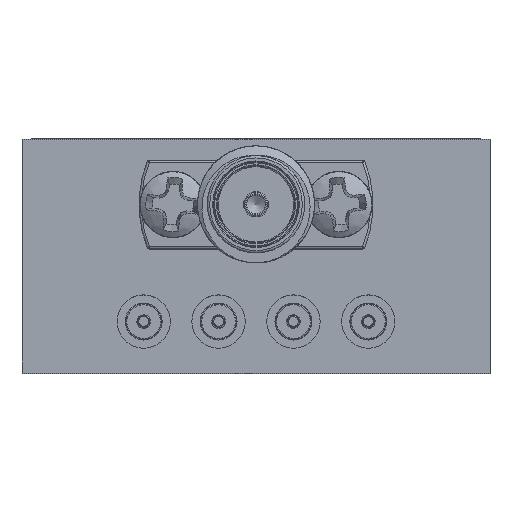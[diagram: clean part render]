
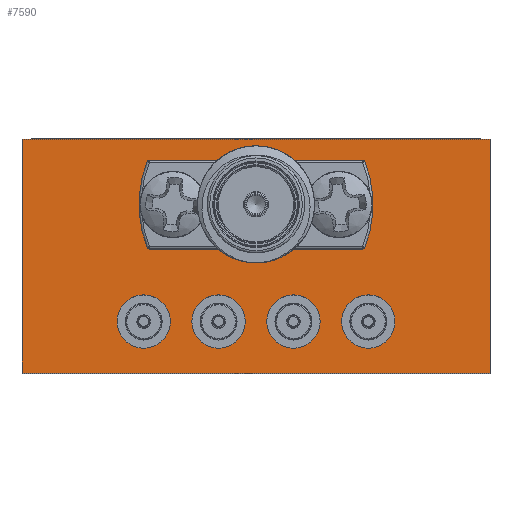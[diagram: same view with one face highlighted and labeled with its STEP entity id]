
A CAD part, top view. The second image highlights one B-rep face of the part: STEP entity #7590.
In plain terms, the highlighted planar face has unit normal (0, 0, 1).
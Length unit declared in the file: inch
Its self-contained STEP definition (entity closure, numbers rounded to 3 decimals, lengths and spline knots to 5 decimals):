
#738 = LINE ( 'NONE', #39437, #1874 ) ;
#778 = VERTEX_POINT ( 'NONE', #15472 ) ;
#863 = FACE_BOUND ( 'NONE', #12836, .T. ) ;
#894 = ORIENTED_EDGE ( 'NONE', *, *, #12998, .F. ) ;
#1414 = DIRECTION ( 'NONE',  ( 0., 1., 0. ) ) ;
#1874 = VECTOR ( 'NONE', #1414, 39.37008 ) ;
#1885 = VECTOR ( 'NONE', #24505, 39.37008 ) ;
#2412 = VERTEX_POINT ( 'NONE', #22697 ) ;
#2648 = CARTESIAN_POINT ( 'NONE',  ( 0.3725, -0.14, 0. ) ) ;
#2805 = CARTESIAN_POINT ( 'NONE',  ( 0., 0., 0. ) ) ;
#3006 = CIRCLE ( 'NONE', #38342, 0.049 ) ;
#3028 = DIRECTION ( 'NONE',  ( 1., 0., 0. ) ) ;
#3105 = CIRCLE ( 'NONE', #18492, 0.057 ) ;
#3108 = VERTEX_POINT ( 'NONE', #2648 ) ;
#3513 = AXIS2_PLACEMENT_3D ( 'NONE', #17100, #42509, #32090 ) ;
#3983 = DIRECTION ( 'NONE',  ( 1., 0., 0. ) ) ;
#4135 = CIRCLE ( 'NONE', #8503, 0.057 ) ;
#4290 = CARTESIAN_POINT ( 'NONE',  ( 0.477, -0.39, 0. ) ) ;
#4317 = DIRECTION ( 'NONE',  ( 1., 0., 0. ) ) ;
#4340 = EDGE_CURVE ( 'NONE', #42293, #778, #37935, .T. ) ;
#4547 = FACE_BOUND ( 'NONE', #35632, .T. ) ;
#4690 = AXIS2_PLACEMENT_3D ( 'NONE', #25247, #28965, #4317 ) ;
#4910 = EDGE_CURVE ( 'NONE', #32371, #32371, #31882, .T. ) ;
#5096 = ORIENTED_EDGE ( 'NONE', *, *, #40471, .F. ) ;
#6775 = CARTESIAN_POINT ( 'NONE',  ( 0.58, -0.39, 0. ) ) ;
#7203 = ORIENTED_EDGE ( 'NONE', *, *, #26222, .T. ) ;
#7447 = CARTESIAN_POINT ( 'NONE',  ( 0.26, -0.39, 0. ) ) ;
#7493 = CARTESIAN_POINT ( 'NONE',  ( 0.797, -0.39, 0. ) ) ;
#7590 = ADVANCED_FACE ( 'NONE', ( #4547, #21338, #863, #32408, #14872, #14435, #43274, #25259 ), #42831, .T. ) ;
#7806 = DIRECTION ( 'NONE',  ( 1., 0., 0. ) ) ;
#7922 = CIRCLE ( 'NONE', #3513, 0.05 ) ;
#8163 = LINE ( 'NONE', #33016, #13530 ) ;
#8503 = AXIS2_PLACEMENT_3D ( 'NONE', #7447, #25116, #3983 ) ;
#9323 = CARTESIAN_POINT ( 'NONE',  ( 0.6775, -0.14, 0. ) ) ;
#9822 = CIRCLE ( 'NONE', #4690, 0.057 ) ;
#10260 = CARTESIAN_POINT ( 'NONE',  ( 1., -0.5, 0. ) ) ;
#10402 = DIRECTION ( 'NONE',  ( 1., 0., 0. ) ) ;
#10908 = VERTEX_POINT ( 'NONE', #25169 ) ;
#11217 = AXIS2_PLACEMENT_3D ( 'NONE', #6775, #45270, #10402 ) ;
#11451 = EDGE_CURVE ( 'NONE', #35849, #35849, #3105, .T. ) ;
#12261 = ORIENTED_EDGE ( 'NONE', *, *, #25270, .F. ) ;
#12696 = EDGE_LOOP ( 'NONE', ( #894 ) ) ;
#12836 = EDGE_LOOP ( 'NONE', ( #25782 ) ) ;
#12998 = EDGE_CURVE ( 'NONE', #40417, #40417, #3006, .T. ) ;
#13530 = VECTOR ( 'NONE', #33254, 39.37008 ) ;
#14435 = FACE_BOUND ( 'NONE', #25227, .T. ) ;
#14872 = FACE_BOUND ( 'NONE', #23040, .T. ) ;
#15472 = CARTESIAN_POINT ( 'NONE',  ( 1., 0., 0. ) ) ;
#16715 = EDGE_LOOP ( 'NONE', ( #12261 ) ) ;
#16883 = DIRECTION ( 'NONE',  ( 1., 0., 0. ) ) ;
#17100 = CARTESIAN_POINT ( 'NONE',  ( 0.3225, -0.14, 0. ) ) ;
#17898 = VECTOR ( 'NONE', #3028, 39.37008 ) ;
#18492 = AXIS2_PLACEMENT_3D ( 'NONE', #38447, #20418, #28041 ) ;
#20418 = DIRECTION ( 'NONE',  ( 0., 0., 1. ) ) ;
#21165 = LINE ( 'NONE', #2805, #17898 ) ;
#21338 = FACE_BOUND ( 'NONE', #29048, .T. ) ;
#21572 = EDGE_CURVE ( 'NONE', #3108, #3108, #7922, .T. ) ;
#22046 = DIRECTION ( 'NONE',  ( 1., 0., 0. ) ) ;
#22252 = DIRECTION ( 'NONE',  ( 0., 0., 1. ) ) ;
#22697 = CARTESIAN_POINT ( 'NONE',  ( 0., 0., 0. ) ) ;
#22722 = ORIENTED_EDGE ( 'NONE', *, *, #21572, .F. ) ;
#23040 = EDGE_LOOP ( 'NONE', ( #30176 ) ) ;
#24505 = DIRECTION ( 'NONE',  ( 0., 1., 0. ) ) ;
#24941 = VERTEX_POINT ( 'NONE', #7493 ) ;
#25116 = DIRECTION ( 'NONE',  ( 0., 0., 1. ) ) ;
#25169 = CARTESIAN_POINT ( 'NONE',  ( 0.637, -0.39, 0. ) ) ;
#25205 = AXIS2_PLACEMENT_3D ( 'NONE', #9323, #41363, #16883 ) ;
#25227 = EDGE_LOOP ( 'NONE', ( #33348 ) ) ;
#25247 = CARTESIAN_POINT ( 'NONE',  ( 0.74, -0.39, 0. ) ) ;
#25259 = FACE_OUTER_BOUND ( 'NONE', #26464, .T. ) ;
#25270 = EDGE_CURVE ( 'NONE', #10908, #10908, #31102, .T. ) ;
#25325 = ORIENTED_EDGE ( 'NONE', *, *, #39504, .F. ) ;
#25782 = ORIENTED_EDGE ( 'NONE', *, *, #25928, .F. ) ;
#25928 = EDGE_CURVE ( 'NONE', #24941, #24941, #9822, .T. ) ;
#26095 = CARTESIAN_POINT ( 'NONE',  ( 0.549, -0.14, 0. ) ) ;
#26222 = EDGE_CURVE ( 'NONE', #30577, #42293, #8163, .T. ) ;
#26464 = EDGE_LOOP ( 'NONE', ( #25325, #5096, #7203, #30981 ) ) ;
#28041 = DIRECTION ( 'NONE',  ( 1., 0., 0. ) ) ;
#28965 = DIRECTION ( 'NONE',  ( 0., 0., 1. ) ) ;
#29048 = EDGE_LOOP ( 'NONE', ( #36216 ) ) ;
#29401 = CARTESIAN_POINT ( 'NONE',  ( 0., -0.5, 0. ) ) ;
#30176 = ORIENTED_EDGE ( 'NONE', *, *, #11451, .F. ) ;
#30577 = VERTEX_POINT ( 'NONE', #29401 ) ;
#30981 = ORIENTED_EDGE ( 'NONE', *, *, #4340, .T. ) ;
#31102 = CIRCLE ( 'NONE', #11217, 0.057 ) ;
#31882 = CIRCLE ( 'NONE', #25205, 0.05 ) ;
#32090 = DIRECTION ( 'NONE',  ( 1., 0., 0. ) ) ;
#32371 = VERTEX_POINT ( 'NONE', #35191 ) ;
#32408 = FACE_BOUND ( 'NONE', #16715, .T. ) ;
#32659 = CARTESIAN_POINT ( 'NONE',  ( 0.5, -0.14, 0. ) ) ;
#32717 = VERTEX_POINT ( 'NONE', #43814 ) ;
#33016 = CARTESIAN_POINT ( 'NONE',  ( 0., -0.5, 0. ) ) ;
#33254 = DIRECTION ( 'NONE',  ( 1., 0., 0. ) ) ;
#33348 = ORIENTED_EDGE ( 'NONE', *, *, #44583, .F. ) ;
#35191 = CARTESIAN_POINT ( 'NONE',  ( 0.7275, -0.14, 0. ) ) ;
#35632 = EDGE_LOOP ( 'NONE', ( #22722 ) ) ;
#35849 = VERTEX_POINT ( 'NONE', #4290 ) ;
#36216 = ORIENTED_EDGE ( 'NONE', *, *, #4910, .F. ) ;
#36434 = AXIS2_PLACEMENT_3D ( 'NONE', #39351, #22252, #7806 ) ;
#37935 = LINE ( 'NONE', #10260, #1885 ) ;
#38342 = AXIS2_PLACEMENT_3D ( 'NONE', #32659, #40026, #22046 ) ;
#38447 = CARTESIAN_POINT ( 'NONE',  ( 0.42, -0.39, 0. ) ) ;
#39351 = CARTESIAN_POINT ( 'NONE',  ( 0., -0.5, 0. ) ) ;
#39437 = CARTESIAN_POINT ( 'NONE',  ( 0., -0.5, 0. ) ) ;
#39504 = EDGE_CURVE ( 'NONE', #2412, #778, #21165, .T. ) ;
#40026 = DIRECTION ( 'NONE',  ( 0., 0., 1. ) ) ;
#40417 = VERTEX_POINT ( 'NONE', #26095 ) ;
#40471 = EDGE_CURVE ( 'NONE', #30577, #2412, #738, .T. ) ;
#41363 = DIRECTION ( 'NONE',  ( 0., 0., 1. ) ) ;
#42293 = VERTEX_POINT ( 'NONE', #43509 ) ;
#42509 = DIRECTION ( 'NONE',  ( 0., 0., 1. ) ) ;
#42831 = PLANE ( 'NONE',  #36434 ) ;
#43274 = FACE_BOUND ( 'NONE', #12696, .T. ) ;
#43509 = CARTESIAN_POINT ( 'NONE',  ( 1., -0.5, 0. ) ) ;
#43814 = CARTESIAN_POINT ( 'NONE',  ( 0.317, -0.39, 0. ) ) ;
#44583 = EDGE_CURVE ( 'NONE', #32717, #32717, #4135, .T. ) ;
#45270 = DIRECTION ( 'NONE',  ( 0., 0., 1. ) ) ;
